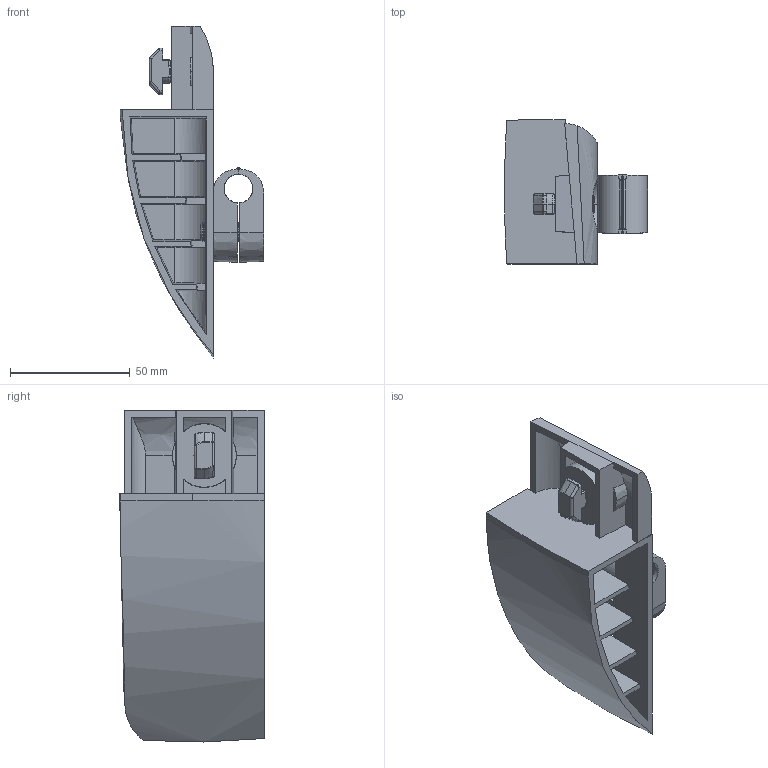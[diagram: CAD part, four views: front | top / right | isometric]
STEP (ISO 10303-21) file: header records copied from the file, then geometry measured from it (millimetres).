
FILE_DESCRIPTION (( 'STEP AP214' ), '1' );
FILE_NAME ('067RCB1BRU006.STEP', '2024-09-23T11:07:18', ( '' ), ( '' ), 'SwSTEP 2.0', 'SolidWorks 2023', '' );
FILE_SCHEMA (( 'AUTOMOTIVE_DESIGN' ));
Length unit declared in the file: millimetre
Products named in the file (9): 4DIN933M08020M_0; 067RCB1BRU006; 096HK1030M0820; 4DIN125AM8M; 4DIN934M08MS01; 067RCB1COS006; 067RCB1BRS004; 067RCB1BRU006(2); 067RCB1BRU006(1)
Assembly tree (9 placements, depth 4):
  067RCB1BRU006
    067RCB1BRU006(2)
      067RCB1BRU006(1)
        067RCB1COS006
        4DIN125AM8M  x2
        096HK1030M0820
        067RCB1BRS004
        4DIN933M08020M_0
        4DIN934M08MS01
Bounding box: 59.8 x 60.3 x 138.65 mm (x, y, z)
Volume: 85497.5 mm3; surface area: 58009.1 mm2
Topology: 8 solids, 8 shells, 560 faces, 1475 edges, 927 vertices
Faces by surface type: plane 233, cone 141, cylinder 137, bspline 47, torus 2
Entity records: 22519 total; most frequent: CARTESIAN_POINT 9311, ORIENTED_EDGE 2906, DIRECTION 2533, EDGE_CURVE 1453, VERTEX_POINT 919, AXIS2_PLACEMENT_3D 906, LINE 721, VECTOR 721
